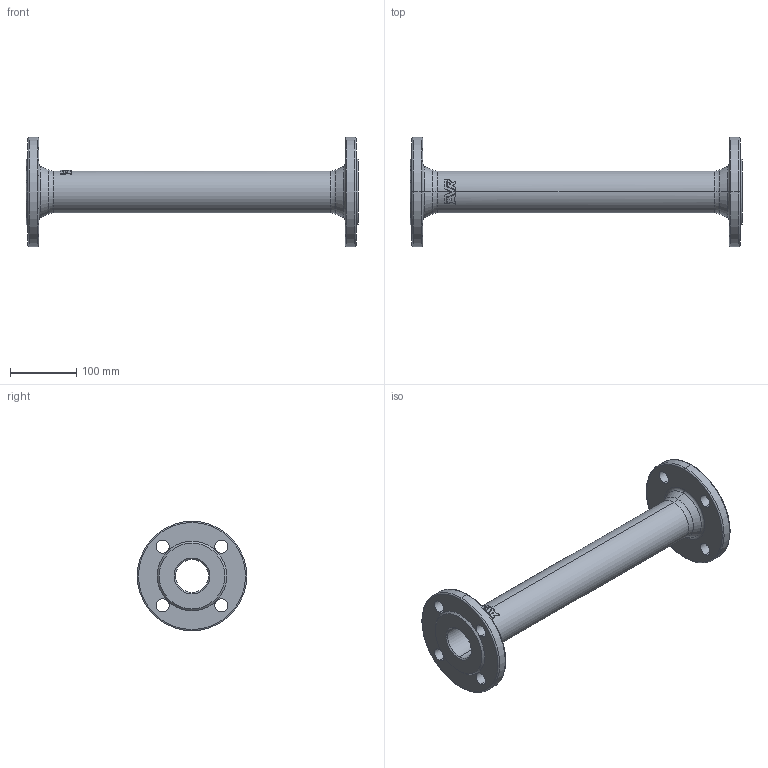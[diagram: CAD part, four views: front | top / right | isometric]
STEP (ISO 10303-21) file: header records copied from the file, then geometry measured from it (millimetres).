
FILE_DESCRIPTION (( 'STEP AP203' ), '1' );
FILE_NAME ('O_712_4810_DN50_1X_REV01.step', '2021-12-01T10:10:18', ( '' ), ( '' ), 'SwSTEP 2.0', 'SolidWorks 2019', '' );
FILE_SCHEMA (( 'CONFIG_CONTROL_DESIGN' ));
Length unit declared in the file: millimetre
Products named in the file (1): O_712_4810_DN50_1X_REV01
Bounding box: 500 x 165 x 165 mm (x, y, z)
Volume: 1184586.1 mm3; surface area: 261615.8 mm2
Topology: 1 solids, 1 shells, 137 faces, 376 edges, 240 vertices
Faces by surface type: bspline 54, cylinder 29, plane 26, torus 16, cone 12
Entity records: 5765 total; most frequent: CARTESIAN_POINT 2428, ORIENTED_EDGE 752, DIRECTION 580, EDGE_CURVE 376, VERTEX_POINT 240, AXIS2_PLACEMENT_3D 230, EDGE_LOOP 154, CIRCLE 146
